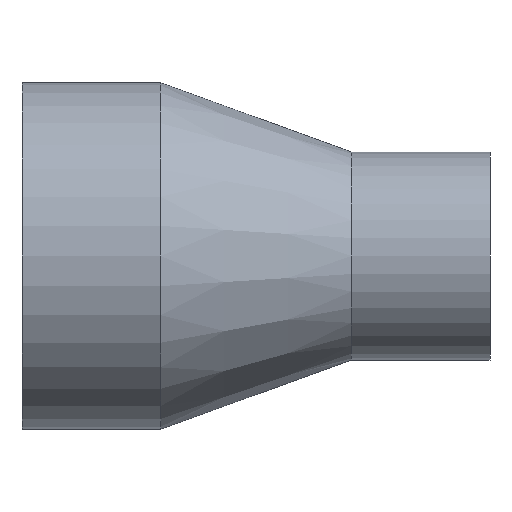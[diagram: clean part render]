
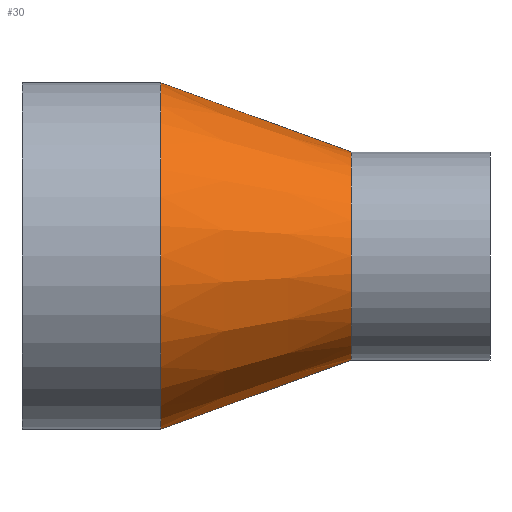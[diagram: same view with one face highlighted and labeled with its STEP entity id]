
A CAD part, front view. The second image highlights one B-rep face of the part: STEP entity #30.
In plain terms, the highlighted conical face has half-angle 19.983 degrees and reference radius 19.05 mm.
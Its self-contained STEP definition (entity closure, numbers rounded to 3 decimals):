
#2 = CARTESIAN_POINT ( 'NONE',  ( 60.325, 0., 0. ) ) ;
#16 = VERTEX_POINT ( 'NONE', #161 ) ;
#28 = FACE_OUTER_BOUND ( 'NONE', #204, .T. ) ;
#30 = ADVANCED_FACE ( 'NONE', ( #28 ), #234, .T. ) ;
#51 = AXIS2_PLACEMENT_3D ( 'NONE', #74, #395, #202 ) ;
#59 = CIRCLE ( 'NONE', #138, 31.75 ) ;
#61 = EDGE_CURVE ( 'NONE', #376, #273, #171, .T. ) ;
#66 = ORIENTED_EDGE ( 'NONE', *, *, #219, .T. ) ;
#74 = CARTESIAN_POINT ( 'NONE',  ( 60.325, 0., 0. ) ) ;
#86 = LINE ( 'NONE', #365, #142 ) ;
#89 = CARTESIAN_POINT ( 'NONE',  ( 60.325, 0., -19.05 ) ) ;
#91 = DIRECTION ( 'NONE',  ( 0., 0., 1. ) ) ;
#94 = DIRECTION ( 'NONE',  ( -0.94, 0., 0.342 ) ) ;
#103 = EDGE_CURVE ( 'NONE', #273, #120, #59, .T. ) ;
#120 = VERTEX_POINT ( 'NONE', #268 ) ;
#123 = CARTESIAN_POINT ( 'NONE',  ( 25.4, 0., 0. ) ) ;
#128 = AXIS2_PLACEMENT_3D ( 'NONE', #2, #194, #358 ) ;
#138 = AXIS2_PLACEMENT_3D ( 'NONE', #123, #382, #91 ) ;
#142 = VECTOR ( 'NONE', #94, 1000. ) ;
#161 = CARTESIAN_POINT ( 'NONE',  ( 60.325, 0., 19.05 ) ) ;
#171 = LINE ( 'NONE', #282, #283 ) ;
#194 = DIRECTION ( 'NONE',  ( -1., 0., 0. ) ) ;
#202 = DIRECTION ( 'NONE',  ( 0., 0., 1. ) ) ;
#204 = EDGE_LOOP ( 'NONE', ( #332, #318, #66, #407 ) ) ;
#210 = EDGE_CURVE ( 'NONE', #376, #16, #326, .T. ) ;
#218 = DIRECTION ( 'NONE',  ( -0.94, 0., -0.342 ) ) ;
#219 = EDGE_CURVE ( 'NONE', #16, #120, #86, .T. ) ;
#228 = CARTESIAN_POINT ( 'NONE',  ( 25.4, 0., -31.75 ) ) ;
#234 = CONICAL_SURFACE ( 'NONE', #128, 19.05, 0.349 ) ;
#268 = CARTESIAN_POINT ( 'NONE',  ( 25.4, 0., 31.75 ) ) ;
#273 = VERTEX_POINT ( 'NONE', #228 ) ;
#282 = CARTESIAN_POINT ( 'NONE',  ( 60.325, 0., -19.05 ) ) ;
#283 = VECTOR ( 'NONE', #218, 1000. ) ;
#318 = ORIENTED_EDGE ( 'NONE', *, *, #210, .T. ) ;
#326 = CIRCLE ( 'NONE', #51, 19.05 ) ;
#332 = ORIENTED_EDGE ( 'NONE', *, *, #61, .F. ) ;
#358 = DIRECTION ( 'NONE',  ( 0., 0., 1. ) ) ;
#365 = CARTESIAN_POINT ( 'NONE',  ( 60.325, 0., 19.05 ) ) ;
#376 = VERTEX_POINT ( 'NONE', #89 ) ;
#382 = DIRECTION ( 'NONE',  ( -1., 0., 0. ) ) ;
#395 = DIRECTION ( 'NONE',  ( -1., 0., 0. ) ) ;
#407 = ORIENTED_EDGE ( 'NONE', *, *, #103, .F. ) ;
